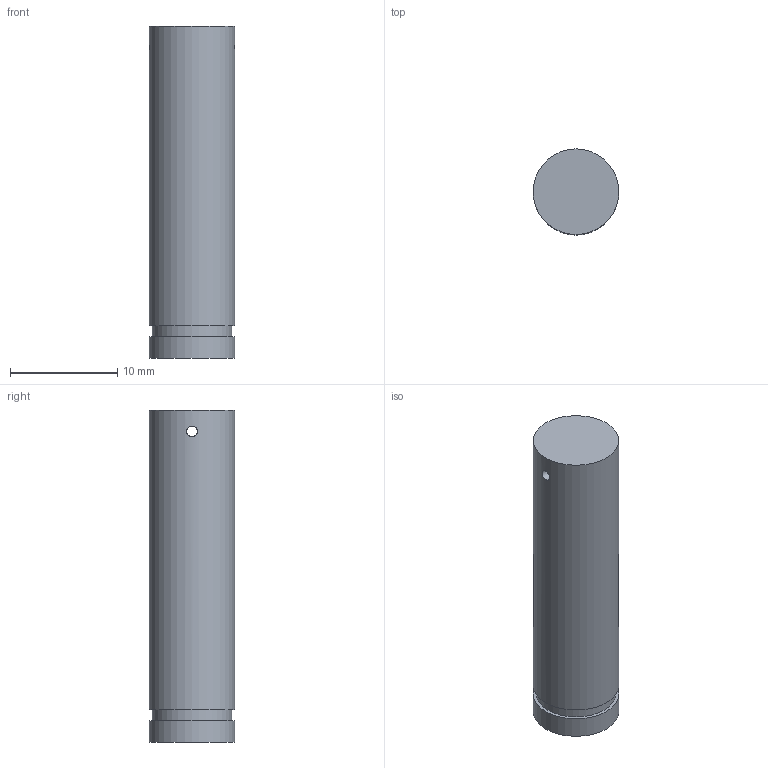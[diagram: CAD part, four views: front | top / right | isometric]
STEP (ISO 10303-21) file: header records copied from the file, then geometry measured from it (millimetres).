
FILE_DESCRIPTION(/* description */ (''),/* implementation_level */ '2;1');
FILE_NAME(/* name */ 'D:/pobrane/pwr/sem 6/konkurs kompozytywni/step/oś_dyspenser.step',/* time_stamp */ '2021-05-10T22:27:40+02:00',/* author */ (''),/* organization */ (''),/* preprocessor_version */ 'ST-DEVELOPER v18.1',/* originating_system */ 'Autodesk Translation Framework v10.6.0.1341',/* authorisation */ '');
FILE_SCHEMA (('AUTOMOTIVE_DESIGN { 1 0 10303 214 3 1 1 }'));
Length unit declared in the file: millimetre
Products named in the file (1): walek
Bounding box: 8 x 8 x 31 mm (x, y, z)
Volume: 1544.7 mm3; surface area: 915.7 mm2
Topology: 1 solids, 1 shells, 8 faces, 17 edges, 12 vertices
Faces by surface type: plane 4, cylinder 4
Full cylindrical faces by diameter (mm): 1 x1, 7.4 x1, 8 x2
Entity records: 325 total; most frequent: CARTESIAN_POINT 108, DIRECTION 35, ORIENTED_EDGE 34, EDGE_CURVE 17, AXIS2_PLACEMENT_3D 15, VERTEX_POINT 12, EDGE_LOOP 11, FACE_OUTER_BOUND 8
